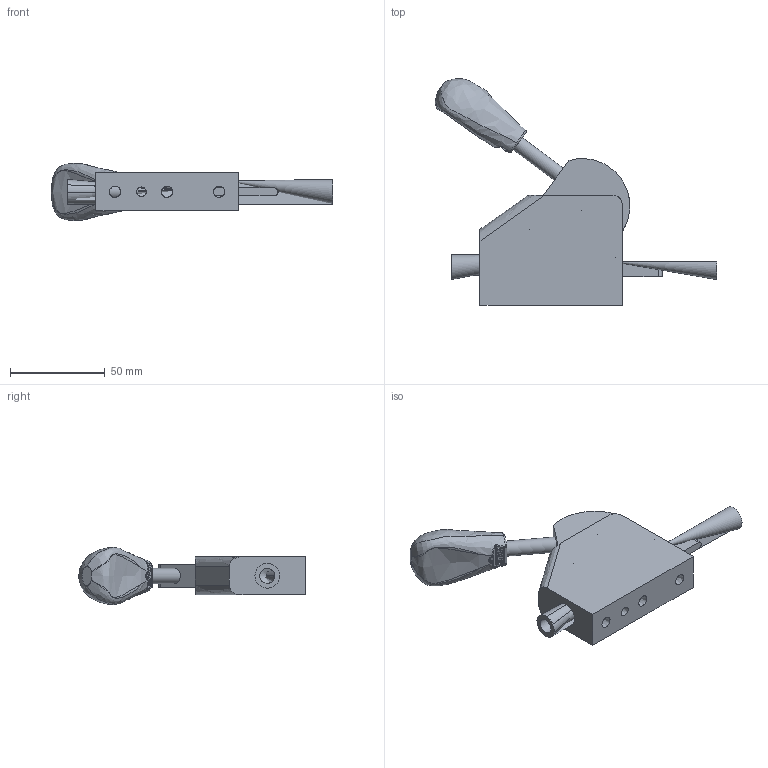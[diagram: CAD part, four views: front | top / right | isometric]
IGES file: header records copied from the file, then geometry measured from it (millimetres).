
Global section: file name: YSP-50ST-UNCLAMP; native system: Autodesk Inventor 2019; preprocessor: unknown; author: 桶田 勝弘,,  11,0; organization: 20180111.003651; date: 20240514.173202; units: millimetre
Bounding box: 148.69 x 119.45 x 30.18 mm (x, y, z)
Volume: 99793.4 mm3; surface area: 38483.1 mm2
Topology: 5 solids, 5 shells, 193 faces, 534 edges, 354 vertices
Faces by surface type: bspline 193
